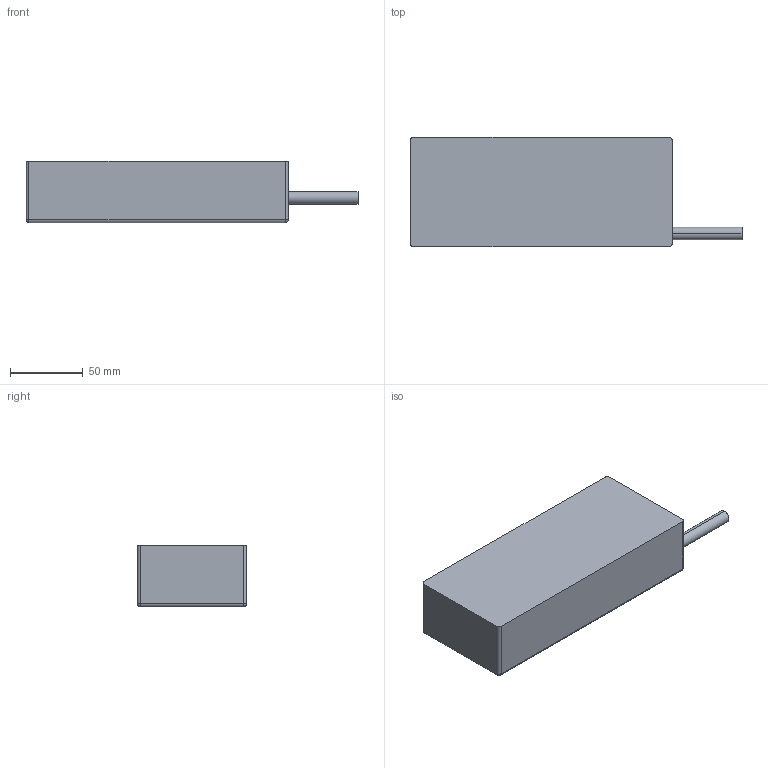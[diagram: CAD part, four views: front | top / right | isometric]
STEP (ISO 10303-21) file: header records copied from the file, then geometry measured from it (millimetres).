
FILE_DESCRIPTION (( 'STEP AP214' ), '1' );
FILE_NAME ('FLS-75-180¶¯×Ó.STEP', '2021-08-19T03:26:45', ( '' ), ( '' ), 'SwSTEP 2.0', 'SolidWorks 2016', '' );
FILE_SCHEMA (( 'AUTOMOTIVE_DESIGN' ));
Length unit declared in the file: millimetre
Products named in the file (1): FLS-75-180雄赽
Bounding box: 228 x 75 x 42 mm (x, y, z)
Volume: 567036.8 mm3; surface area: 51203.1 mm2
Topology: 1 solids, 1 shells, 77 faces, 186 edges, 94 vertices
Faces by surface type: cylinder 38, cone 28, plane 7, sphere 4
Entity records: 2338 total; most frequent: DIRECTION 386, CARTESIAN_POINT 326, ORIENTED_EDGE 308, AXIS2_PLACEMENT_3D 154, EDGE_CURVE 154, VERTEX_POINT 94, EDGE_LOOP 92, VECTOR 78
